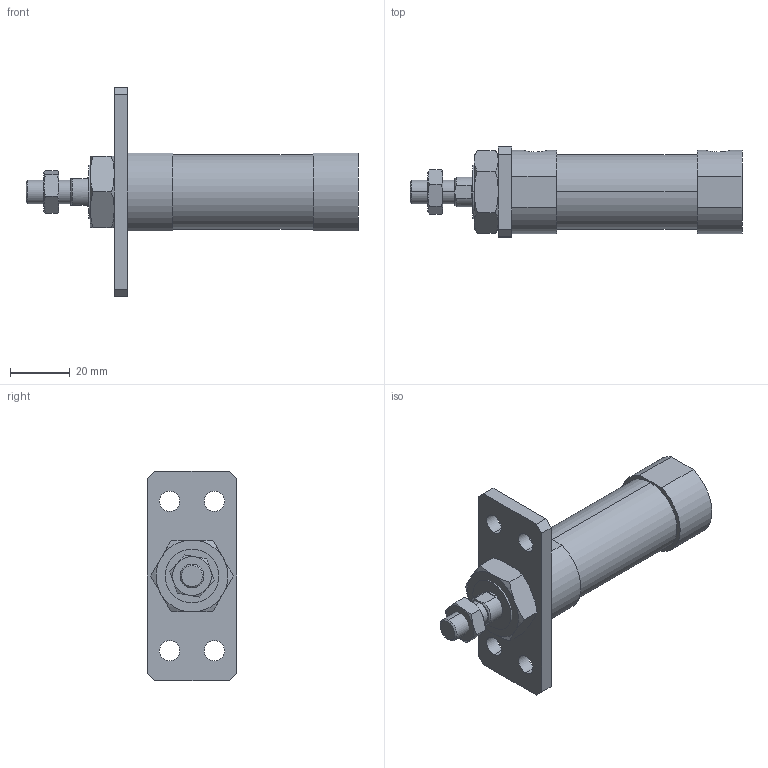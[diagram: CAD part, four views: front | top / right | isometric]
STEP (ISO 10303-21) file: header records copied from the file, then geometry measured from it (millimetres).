
FILE_DESCRIPTION (( 'STEP AP203' ), '1' );
FILE_NAME ('JGND2-20-15-A.STEP', '2016-08-04T02:19:42', ( '' ), ( '' ), 'SwSTEP 2.0', 'SolidWorks 2014', '' );
FILE_SCHEMA (( 'CONFIG_CONTROL_DESIGN' ));
Length unit declared in the file: millimetre
Products named in the file (5): JGND2-20-15-A; J#2-20-A; J#2-20-15(P)
Assembly tree (4 placements, depth 2):
  JGND2-20-15-A
    J#2-20-15(P)
    (unnamed)
    (unnamed)
    J#2-20-A
Bounding box: 111 x 30 x 70 mm (x, y, z)
Volume: 54419.3 mm3; surface area: 16741.2 mm2
Topology: 4 solids, 4 shells, 104 faces, 236 edges, 148 vertices
Faces by surface type: plane 44, cylinder 32, torus 24, cone 4
Entity records: 3803 total; most frequent: CARTESIAN_POINT 951, DIRECTION 494, ORIENTED_EDGE 472, EDGE_CURVE 236, AXIS2_PLACEMENT_3D 203, VERTEX_POINT 148, EDGE_LOOP 126, FACE_OUTER_BOUND 104
